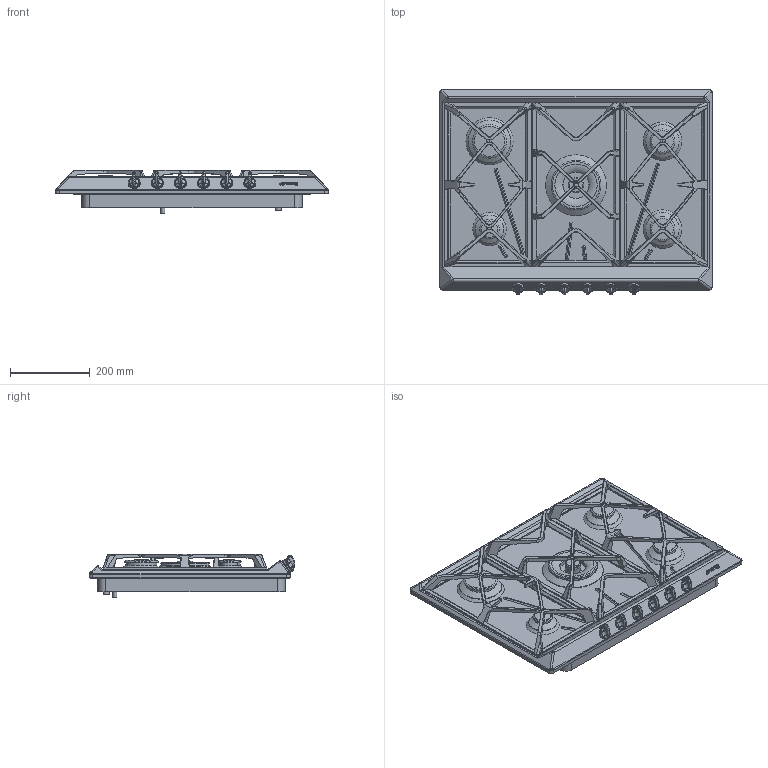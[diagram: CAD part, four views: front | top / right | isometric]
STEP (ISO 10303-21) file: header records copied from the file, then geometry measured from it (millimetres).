
FILE_DESCRIPTION(/* description */ (''),/* implementation_level */ '2;1');
FILE_NAME(/* name */ 'piano srv576gh5.stp',/* time_stamp */ '2019-03-04T11:36:42+01:00',/* author */ (''),/* organization */ (''),/* preprocessor_version */ 'ST-DEVELOPER v16',/* originating_system */ 'SIEMENS PLM Software NX 11.0',/* authorisation */ '');
FILE_SCHEMA (('AUTOMOTIVE_DESIGN { 1 0 10303 214 3 1 1 1 }'));
Length unit declared in the file: millimetre
Products named in the file (1): gobb21F4FF15tznt
Bounding box: 683 x 514.96 x 108.5 mm (x, y, z)
Volume: 15889111.6 mm3; surface area: 1886646.2 mm2
Topology: 32 solids, 32 shells, 1370 faces, 3396 edges, 2072 vertices
Faces by surface type: plane 465, cylinder 391, bspline 390, cone 41, sphere 40, torus 28, extrusion 15
Full cylindrical faces by diameter (mm): 3.988 x6, 10 x16, 14 x2, 20 x6, 22.3 x1, 26 x1, 38 x1, 42 x1, 43 x1, 55 x2, 56 x2, 65.6 x1, 70.5 x1, 77.5 x1, 78.5 x1, 83 x2, 106 x1, 111 x1, 113.5 x1, 122.009 x1, 152 x1
Entity records: 45636 total; most frequent: CARTESIAN_POINT 15396, ORIENTED_EDGE 6508, DIRECTION 5852, EDGE_CURVE 3254, AXIS2_PLACEMENT_3D 2256, VERTEX_POINT 2048, EDGE_LOOP 1516, ADVANCED_FACE 1370
